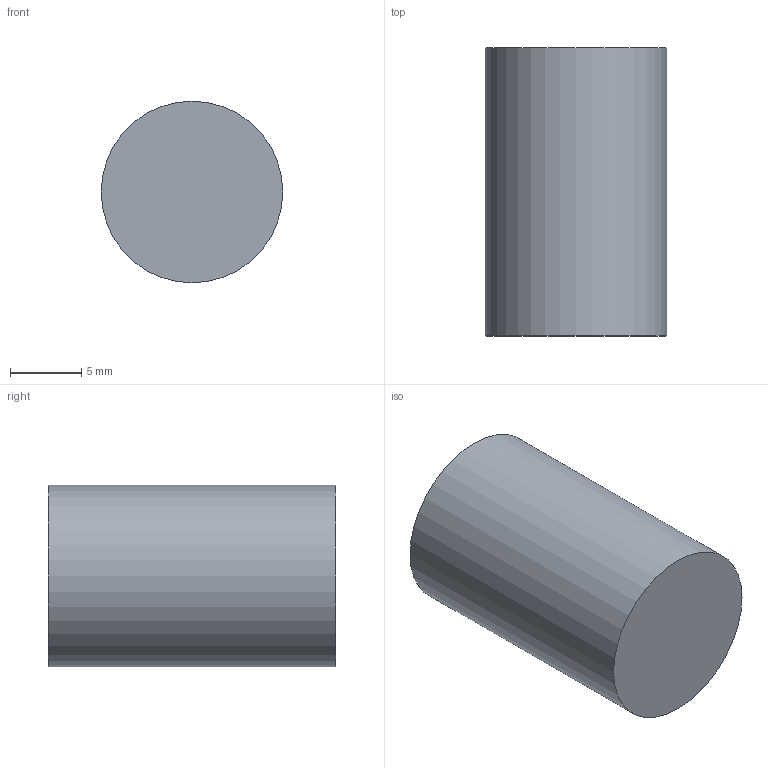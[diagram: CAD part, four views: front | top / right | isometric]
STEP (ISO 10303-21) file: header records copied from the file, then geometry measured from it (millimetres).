
FILE_DESCRIPTION(/* description */ (''),/* implementation_level */ '2;1');
FILE_NAME(/* name */ 'D:\PRJ\70cm Combiner\M-CAD\Spacer 2.stp',/* time_stamp */ '2025-01-16T10:10:49+01:00',/* author */ ('Carsten Grøn'),/* organization */ (''),/* preprocessor_version */ 'ST-DEVELOPER v18',/* originating_system */ 'Autodesk Inventor 2020',/* authorisation */ '');
FILE_SCHEMA (('CONFIG_CONTROL_DESIGN'));
Length unit declared in the file: millimetre
Products named in the file (1): Spacer 2
Bounding box: 12.7 x 20.14 x 12.7 mm (x, y, z)
Volume: 2551.6 mm3; surface area: 1057 mm2
Topology: 1 solids, 1 shells, 3 faces, 5 edges, 4 vertices
Faces by surface type: plane 2, cylinder 1
Full cylindrical faces by diameter (mm): 12.7 x1
Entity records: 120 total; most frequent: DIRECTION 17, CARTESIAN_POINT 13, ORIENTED_EDGE 10, AXIS2_PLACEMENT_3D 8, EDGE_CURVE 5, CIRCLE 4, VERTEX_POINT 4, FACE_OUTER_BOUND 3
